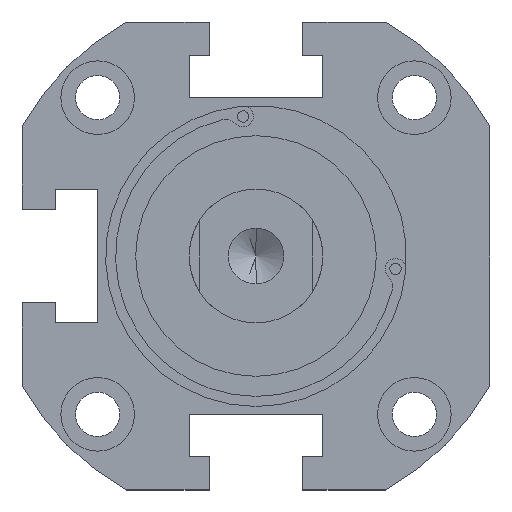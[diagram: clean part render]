
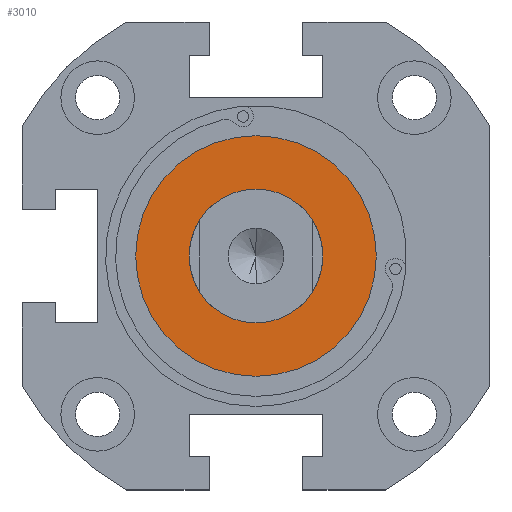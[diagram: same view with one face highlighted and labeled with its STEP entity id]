
A CAD part, front view. The second image highlights one B-rep face of the part: STEP entity #3010.
In plain terms, the highlighted planar face has unit normal (0, -1, 0) as drawn and (0, 1, 0) by its records, which use the part's own axes.
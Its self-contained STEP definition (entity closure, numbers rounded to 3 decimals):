
#113 = EDGE_LOOP ( 'NONE', ( #837, #1412 ) ) ;
#196 = VERTEX_POINT ( 'NONE', #1611 ) ;
#208 = CARTESIAN_POINT ( 'NONE',  ( 0., 0., 18. ) ) ;
#210 = CARTESIAN_POINT ( 'NONE',  ( 0., 0., 0. ) ) ;
#240 = FACE_BOUND ( 'NONE', #2146, .T. ) ;
#374 = CIRCLE ( 'NONE', #2757, 10. ) ;
#502 = AXIS2_PLACEMENT_3D ( 'NONE', #210, #3548, #2712 ) ;
#706 = VERTEX_POINT ( 'NONE', #208 ) ;
#707 = CIRCLE ( 'NONE', #3391, 18. ) ;
#728 = DIRECTION ( 'NONE',  ( 0., 0., 1. ) ) ;
#837 = ORIENTED_EDGE ( 'NONE', *, *, #979, .T. ) ;
#979 = EDGE_CURVE ( 'NONE', #706, #1710, #707, .T. ) ;
#1120 = CARTESIAN_POINT ( 'NONE',  ( 0., 0., 0. ) ) ;
#1191 = DIRECTION ( 'NONE',  ( 0., 0., 1. ) ) ;
#1235 = DIRECTION ( 'NONE',  ( 0., 1., 0. ) ) ;
#1385 = VERTEX_POINT ( 'NONE', #1756 ) ;
#1390 = ORIENTED_EDGE ( 'NONE', *, *, #3259, .F. ) ;
#1412 = ORIENTED_EDGE ( 'NONE', *, *, #2069, .T. ) ;
#1550 = EDGE_CURVE ( 'NONE', #196, #1385, #1960, .T. ) ;
#1611 = CARTESIAN_POINT ( 'NONE',  ( 0., 0., -10. ) ) ;
#1710 = VERTEX_POINT ( 'NONE', #2861 ) ;
#1736 = DIRECTION ( 'NONE',  ( 0., 0., 1. ) ) ;
#1756 = CARTESIAN_POINT ( 'NONE',  ( 0., 0., 10. ) ) ;
#1960 = CIRCLE ( 'NONE', #502, 10. ) ;
#2069 = EDGE_CURVE ( 'NONE', #1710, #706, #3390, .T. ) ;
#2146 = EDGE_LOOP ( 'NONE', ( #3552, #1390 ) ) ;
#2198 = DIRECTION ( 'NONE',  ( 0., 1., 0. ) ) ;
#2345 = DIRECTION ( 'NONE',  ( 0., 1., 0. ) ) ;
#2361 = FACE_OUTER_BOUND ( 'NONE', #113, .T. ) ;
#2490 = AXIS2_PLACEMENT_3D ( 'NONE', #3458, #2345, #728 ) ;
#2525 = PLANE ( 'NONE',  #3218 ) ;
#2561 = DIRECTION ( 'NONE',  ( 0., 1., 0. ) ) ;
#2712 = DIRECTION ( 'NONE',  ( 0., 0., 1. ) ) ;
#2756 = DIRECTION ( 'NONE',  ( 0., 0., 1. ) ) ;
#2757 = AXIS2_PLACEMENT_3D ( 'NONE', #2881, #1235, #1191 ) ;
#2861 = CARTESIAN_POINT ( 'NONE',  ( 0., 0., -18. ) ) ;
#2881 = CARTESIAN_POINT ( 'NONE',  ( 0., 0., 0. ) ) ;
#3010 = ADVANCED_FACE ( 'NONE', ( #240, #2361 ), #2525, .T. ) ;
#3218 = AXIS2_PLACEMENT_3D ( 'NONE', #3393, #2561, #1736 ) ;
#3259 = EDGE_CURVE ( 'NONE', #1385, #196, #374, .T. ) ;
#3390 = CIRCLE ( 'NONE', #2490, 18. ) ;
#3391 = AXIS2_PLACEMENT_3D ( 'NONE', #1120, #2198, #2756 ) ;
#3393 = CARTESIAN_POINT ( 'NONE',  ( 0., 0., 0. ) ) ;
#3458 = CARTESIAN_POINT ( 'NONE',  ( 0., 0., 0. ) ) ;
#3548 = DIRECTION ( 'NONE',  ( 0., 1., 0. ) ) ;
#3552 = ORIENTED_EDGE ( 'NONE', *, *, #1550, .F. ) ;
